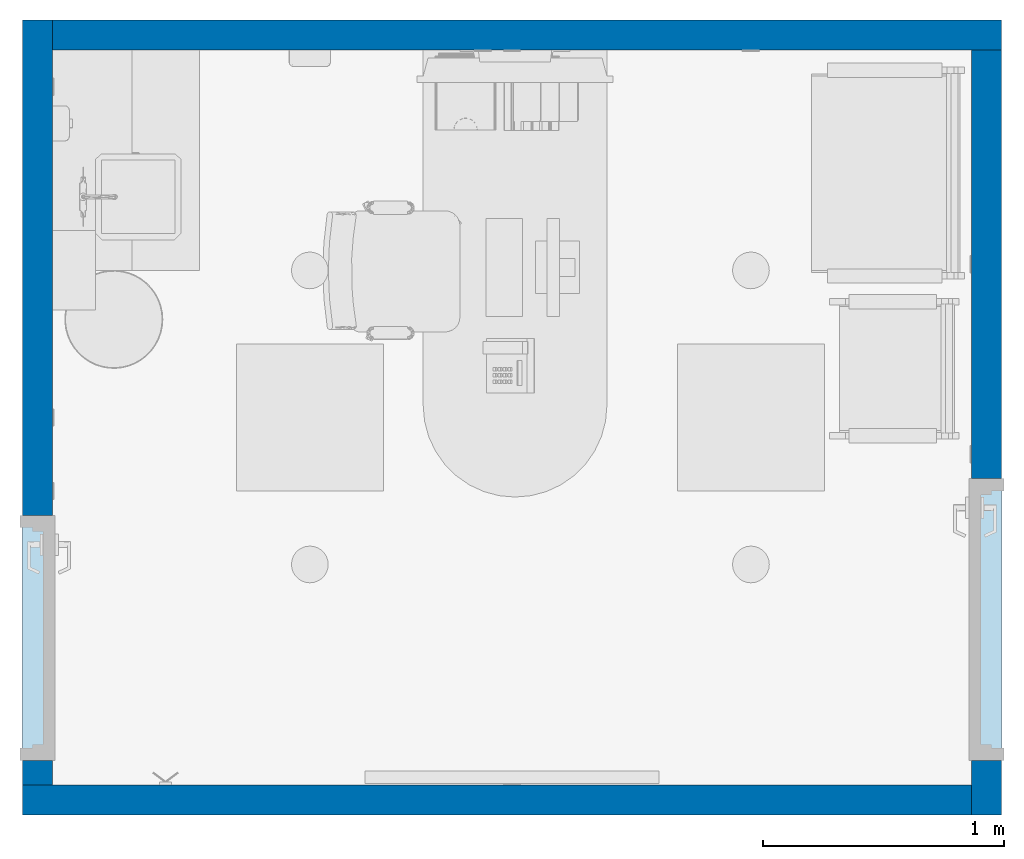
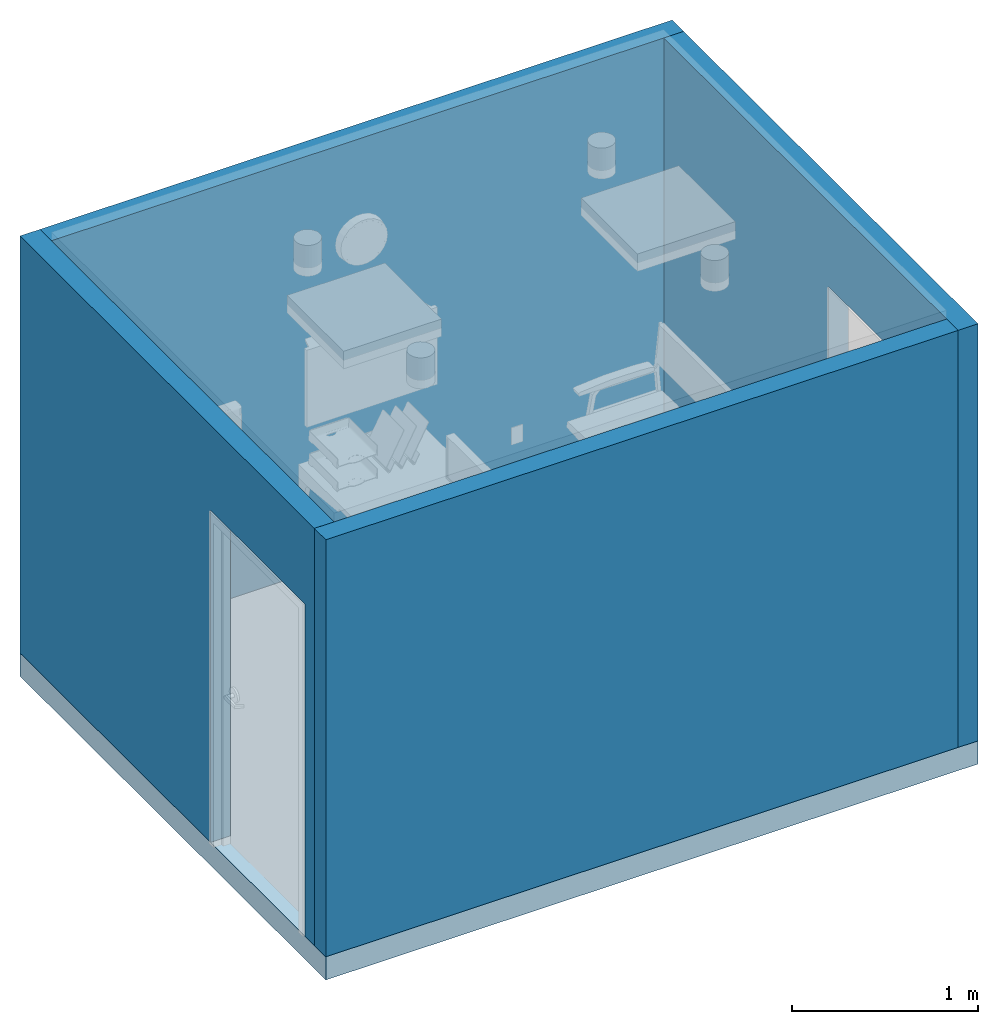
# One storey, part 1 of 10: 4 walls, 1 slab, 2 openings.
"""IFC2X3 building model written with IfcOpenShell, lengths in feet."""

from ifc_helpers import new_model, entity, si_unit, converted_unit, derived_unit, direction, frame, frame_2d, origin, place, context, subcontext, project, spatial, rectangle, extrude, material, layer, layer_set, layer_usage, type_object, element, save


model = new_model("IFC2X3")

# Units and contexts
model_context = context("Model", 3, precision=0.0001, world=origin(), true_north=direction((6.12303176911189e-17, 1.0)))
body_context = subcontext(model_context, "Body", "Model", "MODEL_VIEW")
ifc_project = project(units=[converted_unit("LENGTHUNIT", "FOOT", entity("IfcRatioMeasure", 0.3048), si_unit("LENGTHUNIT", "METRE"), dimensions=[1, 0, 0, 0, 0, 0, 0]), converted_unit("AREAUNIT", "SQUARE FOOT", entity("IfcRatioMeasure", 0.09290304), si_unit("AREAUNIT", "SQUARE_METRE"), dimensions=[2, 0, 0, 0, 0, 0, 0]), converted_unit("VOLUMEUNIT", "CUBIC FOOT", entity("IfcRatioMeasure", 0.028316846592), si_unit("VOLUMEUNIT", "CUBIC_METRE"), dimensions=[3, 0, 0, 0, 0, 0, 0]), converted_unit("PLANEANGLEUNIT", "DEGREE", entity("IfcRatioMeasure", 0.0174532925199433), si_unit("PLANEANGLEUNIT", "RADIAN"), dimensions=[0, 0, 0, 0, 0, 0, 0]), si_unit("MASSUNIT", "GRAM", prefix="KILO"), derived_unit("MASSDENSITYUNIT", [(si_unit("MASSUNIT", "GRAM", prefix="KILO"), 1), (si_unit("LENGTHUNIT", "METRE"), -3)]), si_unit("TIMEUNIT", "SECOND"), si_unit("FREQUENCYUNIT", "HERTZ"), si_unit("THERMODYNAMICTEMPERATUREUNIT", "DEGREE_CELSIUS"), derived_unit("THERMALTRANSMITTANCEUNIT", [(si_unit("MASSUNIT", "GRAM", prefix="KILO"), 1), (si_unit("THERMODYNAMICTEMPERATUREUNIT", "KELVIN"), -1), (si_unit("TIMEUNIT", "SECOND"), -3)]), derived_unit("VOLUMETRICFLOWRATEUNIT", [(si_unit("LENGTHUNIT", "METRE"), 3), (si_unit("TIMEUNIT", "SECOND"), -1)]), si_unit("ELECTRICCURRENTUNIT", "AMPERE"), si_unit("ELECTRICVOLTAGEUNIT", "VOLT"), si_unit("POWERUNIT", "WATT"), si_unit("FORCEUNIT", "NEWTON"), si_unit("ILLUMINANCEUNIT", "LUX"), si_unit("LUMINOUSFLUXUNIT", "LUMEN"), si_unit("LUMINOUSINTENSITYUNIT", "CANDELA"), derived_unit("USERDEFINED", [(si_unit("MASSUNIT", "GRAM", prefix="KILO"), -1), (si_unit("LENGTHUNIT", "METRE"), -2), (si_unit("TIMEUNIT", "SECOND"), 3), (si_unit("LUMINOUSFLUXUNIT", "LUMEN"), 1)]), derived_unit("LINEARVELOCITYUNIT", [(si_unit("LENGTHUNIT", "METRE"), 1), (si_unit("TIMEUNIT", "SECOND"), -1)]), si_unit("PRESSUREUNIT", "PASCAL"), derived_unit("USERDEFINED", [(si_unit("LENGTHUNIT", "METRE"), -2), (si_unit("MASSUNIT", "GRAM", prefix="KILO"), 1), (si_unit("TIMEUNIT", "SECOND"), -2)])], contexts=[model_context])

# Site, building, storey
site_placement = place(None, origin())
site = spatial("IfcSite", under=ifc_project, at=site_placement, Name="Default", CompositionType="ELEMENT")
building_placement = place(site_placement, origin())
building = spatial("IfcBuilding", under=site, at=building_placement, Name="OUTPATIENT / PACT CLINIC (Ch. 265)", CompositionType="ELEMENT")
storey_placement = place(building_placement, origin())
storey = spatial("IfcBuildingStorey", under=building, at=storey_placement, Name="DATUM", CompositionType="ELEMENT", Elevation=0.0)

# Slab
ifc_material = material(Name="<Unnamed>")
ifc_layer_1 = layer(ifc_material, 0.5)
ifc_layer_set_1 = layer_set([ifc_layer_1], Name="Floor:Generic - 6\"")
ifc_layer_usage_1 = layer_usage(ifc_layer_set_1, "AXIS3", "POSITIVE", 0.0)
slab_placement = place(storey_placement, origin())
element("IfcSlab", 1, at=slab_placement, inside=storey, material=ifc_layer_usage_1, Name="Floor:Generic - 6\"", ObjectType="Floor:Generic - 6\"", PredefinedType="FLOOR", context=body_context, shape_type="SweptSolid", body=[
    extrude(rectangle(XDim=10.8124999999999, YDim=13.3125, at=frame_2d((5.6843418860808e-14, 0.0), x_axis=(1.0, 0.0))), frame((-72.0053643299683, -856.690450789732, 0.0), z_axis=(0.0, 0.0, -1.0), x_axis=(0.0, 1.0, 0.0)), (0.0, 0.0, 1.0), 0.5),
])

# Wall, opening
ifc_layer_2 = layer(ifc_material, 0.40625)
ifc_layer_set_2 = layer_set([ifc_layer_2], Name="Basic Wall:Interior - 4 7/8\"")
ifc_layer_usage_2 = layer_usage(ifc_layer_set_2, "AXIS2", "NEGATIVE", 0.203125)
wall_type = type_object("IfcWallType", Name="Basic Wall:Interior - 4 7/8\"", PredefinedType="STANDARD", material=ifc_layer_set_2)
wall_1_placement = place(storey_placement, frame((-65.5522393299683, -851.690450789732, 0.0), z_axis=(0.0, 0.0, 1.0), x_axis=(0.0, -1.0, 0.0)))
wall_1 = element("IfcWallStandardCase", 2, at=wall_1_placement, inside=storey, type_object=wall_type, material=ifc_layer_usage_2, Name="Basic Wall:Interior - 4 7/8\"", ObjectType="Basic Wall:Interior - 4 7/8\"", context=body_context, shape_type="SweptSolid", body=[
    extrude(rectangle(XDim=10.4062499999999, YDim=0.40625, at=frame_2d((5.20312499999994, 9.29811783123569e-16), x_axis=(-1.0, 0.0))), origin(), (0.0, 0.0, 1.0), 9.0),
])
opening_1_placement = place(wall_1_placement, frame((9.66666666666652, 0.203124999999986, 0.0)))
element("IfcOpeningElement", 3, at=opening_1_placement, cuts=wall_1, Name="Single - Flush:42\" x 84\":1", ObjectType="Opening", context=body_context, shape_type="SweptSolid", body=[
    extrude(rectangle(XDim=3.83333333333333, YDim=7.16666666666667, at=frame_2d((3.58333333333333, 1.91666666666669), x_axis=(0.0, -1.0))), frame((0.0, 0.0, 0.0), z_axis=(0.0, -1.0, 0.0), x_axis=(0.0, 0.0, 1.0)), (0.0, 0.0, 1.0), 0.40625),
])

ifc_layer_usage_3 = layer_usage(ifc_layer_set_2, "AXIS2", "NEGATIVE", 0.203125)
wall_2_placement = place(storey_placement, frame((-78.4584893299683, -861.690450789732, 0.0), z_axis=(0.0, 0.0, 1.0), x_axis=(0.0, 1.0, 0.0)))
wall_2 = element("IfcWallStandardCase", 4, at=wall_2_placement, inside=storey, type_object=wall_type, material=ifc_layer_usage_3, Name="Basic Wall:Interior - 4 7/8\"", ObjectType="Basic Wall:Interior - 4 7/8\"", context=body_context, shape_type="SweptSolid", body=[
    extrude(rectangle(XDim=10.40625, YDim=0.40625, at=frame_2d((5.203125, 7.91033905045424e-16), x_axis=(-1.0, 0.0))), origin(), (0.0, 0.0, 1.0), 9.0),
])
opening_2_placement = place(wall_2_placement, frame((3.66666666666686, 0.203125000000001, 0.0)))
element("IfcOpeningElement", 5, at=opening_2_placement, cuts=wall_2, Name="Single - Flush:36\" x 84\":1", ObjectType="Opening", context=body_context, shape_type="SweptSolid", body=[
    extrude(rectangle(XDim=3.33333333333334, YDim=7.16666666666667, at=frame_2d((3.58333333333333, 1.66666666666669), x_axis=(0.0, 1.0))), frame((0.0, 0.0, 0.0), z_axis=(0.0, -1.0, 0.0), x_axis=(0.0, 0.0, 1.0)), (0.0, 0.0, 1.0), 0.40625),
])

# Walls
ifc_layer_usage_4 = layer_usage(ifc_layer_set_2, "AXIS2", "POSITIVE", -0.203125)
wall_3_placement = place(storey_placement, frame((-78.6616143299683, -861.893575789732, 0.0)))
element("IfcWallStandardCase", 6, at=wall_3_placement, inside=storey, type_object=wall_type, material=ifc_layer_usage_4, Name="Basic Wall:Interior - 4 7/8\"", ObjectType="Basic Wall:Interior - 4 7/8\"", context=body_context, shape_type="SweptSolid", body=[
    extrude(rectangle(XDim=12.90625, YDim=0.40625, at=frame_2d((6.45312500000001, 2.08028039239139e-14), x_axis=(-1.0, 0.0))), origin(), (0.0, 0.0, 1.0), 9.0),
])
ifc_layer_usage_5 = layer_usage(ifc_layer_set_2, "AXIS2", "NEGATIVE", 0.203125)
wall_4_placement = place(storey_placement, frame((-78.2553643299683, -851.487325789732, 0.0)))
element("IfcWallStandardCase", 7, at=wall_4_placement, inside=storey, type_object=wall_type, material=ifc_layer_usage_5, Name="Basic Wall:Interior - 4 7/8\"", ObjectType="Basic Wall:Interior - 4 7/8\"", context=body_context, shape_type="SweptSolid", body=[
    extrude(rectangle(XDim=12.90625, YDim=0.40625, at=frame_2d((6.45312500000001, -3.62487817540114e-14), x_axis=(-1.0, 0.0))), origin(), (0.0, 0.0, 1.0), 9.0),
])

save(model, "model.ifc")
